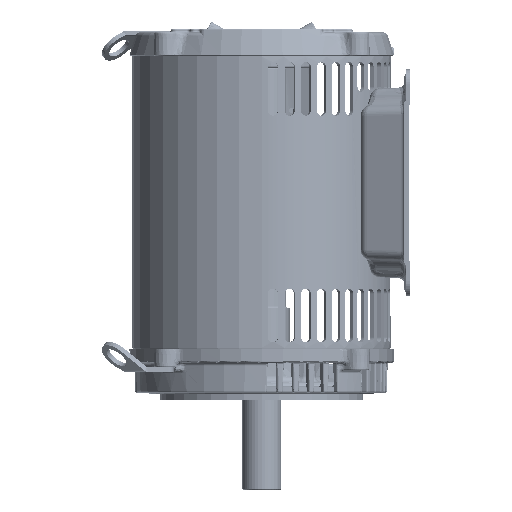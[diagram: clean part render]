
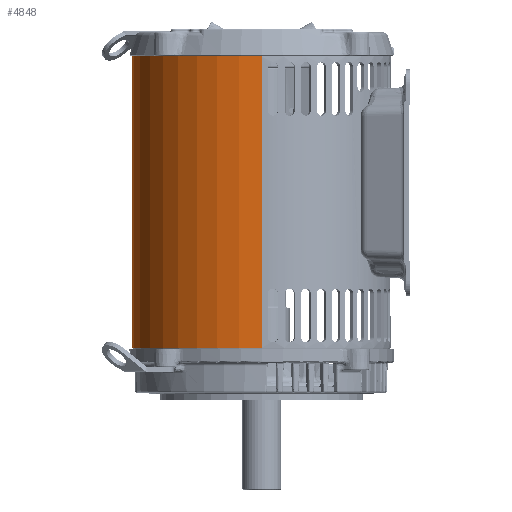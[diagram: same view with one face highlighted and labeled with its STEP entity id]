
A CAD part, left-side view. The second image highlights one B-rep face of the part: STEP entity #4848.
In plain terms, the highlighted cylindrical face has radius 137.879 mm (diameter 275.758 mm), a partial arc.
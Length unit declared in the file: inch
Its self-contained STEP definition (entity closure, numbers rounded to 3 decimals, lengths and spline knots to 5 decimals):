
#1=CARTESIAN_POINT('',(-5.28242,1.25,-3.9535));
#2=CARTESIAN_POINT('',(-5.27929,1.26322,-3.9535));
#3=CARTESIAN_POINT('',(-5.27334,1.28795,-3.94904));
#4=CARTESIAN_POINT('',(-5.26486,1.32214,-3.92944));
#5=CARTESIAN_POINT('',(-5.25855,1.34693,-3.89951));
#6=CARTESIAN_POINT('',(-5.25519,1.35995,-3.86358));
#7=CARTESIAN_POINT('',(-5.25514,1.36012,-3.82515));
#8=CARTESIAN_POINT('',(-5.25849,1.34715,-3.78892));
#9=CARTESIAN_POINT('',(-5.26468,1.32284,-3.75915));
#10=CARTESIAN_POINT('',(-5.27325,1.28831,-3.73901));
#11=CARTESIAN_POINT('',(-5.27926,1.26336,-3.7345));
#12=CARTESIAN_POINT('',(-5.28242,1.25,-3.7345));
#14=CARTESIAN_POINT('',(-5.28242,1.25,-3.7345));
#15=CARTESIAN_POINT('',(-5.28554,1.23681,-3.7345));
#16=CARTESIAN_POINT('',(-5.29128,1.21212,-3.73894));
#17=CARTESIAN_POINT('',(-5.29897,1.17799,-3.75846));
#18=CARTESIAN_POINT('',(-5.30441,1.15315,-3.78834));
#19=CARTESIAN_POINT('',(-5.30724,1.14004,-3.82435));
#20=CARTESIAN_POINT('',(-5.30727,1.13988,-3.86294));
#21=CARTESIAN_POINT('',(-5.30446,1.15294,-3.89924));
#22=CARTESIAN_POINT('',(-5.29912,1.17731,-3.92898));
#23=CARTESIAN_POINT('',(-5.29136,1.2118,-3.94901));
#24=CARTESIAN_POINT('',(-5.28557,1.23668,-3.9535));
#25=CARTESIAN_POINT('',(-5.28242,1.25,-3.9535));
#27=CARTESIAN_POINT('',(0.,0.,-6.108));
#28=DIRECTION('',(0.,0.,1.));
#29=DIRECTION('',(1.,0.,0.));
#30=AXIS2_PLACEMENT_3D('',#27,#28,#29);
#32=DIRECTION('',(0.,0.,1.));
#33=VECTOR('',#32,12.217);
#34=CARTESIAN_POINT('',(5.4283,0.,-6.108));
#35=LINE('',#34,#33);
#36=CARTESIAN_POINT('',(0.,0.,6.109));
#37=DIRECTION('',(0.,0.,1.));
#38=DIRECTION('',(1.,0.,0.));
#39=AXIS2_PLACEMENT_3D('',#36,#37,#38);
#41=CARTESIAN_POINT('',(0.,0.,-1.784));
#42=DIRECTION('',(0.,0.,1.));
#43=DIRECTION('',(-0.993,0.114,0.));
#44=AXIS2_PLACEMENT_3D('',#41,#42,#43);
#46=CARTESIAN_POINT('',(-5.37624,0.75,-1.914));
#47=CARTESIAN_POINT('',(-5.37624,0.75,-1.90015));
#48=CARTESIAN_POINT('',(-5.37683,0.74581,-1.87385));
#49=CARTESIAN_POINT('',(-5.37937,0.72731,-1.83683));
#50=CARTESIAN_POINT('',(-5.38326,0.69811,-1.80733));
#51=CARTESIAN_POINT('',(-5.38798,0.66082,-1.78834));
#52=CARTESIAN_POINT('',(-5.39115,0.63411,-1.784));
#53=CARTESIAN_POINT('',(-5.39278,0.62,-1.784));
#55=DIRECTION('',(0.,0.,1.));
#56=VECTOR('',#55,2.99);
#57=CARTESIAN_POINT('',(-5.37624,0.75,-4.904));
#58=LINE('',#57,#56);
#59=CARTESIAN_POINT('',(-5.39278,0.62,-5.034));
#60=CARTESIAN_POINT('',(-5.39117,0.63397,-5.034));
#61=CARTESIAN_POINT('',(-5.38802,0.66045,-5.02974));
#62=CARTESIAN_POINT('',(-5.38332,0.69761,-5.01102));
#63=CARTESIAN_POINT('',(-5.37942,0.72697,-4.98168));
#64=CARTESIAN_POINT('',(-5.37684,0.74573,-4.9445));
#65=CARTESIAN_POINT('',(-5.37624,0.75,-4.91798));
#66=CARTESIAN_POINT('',(-5.37624,0.75,-4.904));
#68=CARTESIAN_POINT('',(0.,0.,-5.034));
#69=DIRECTION('',(0.,0.,1.));
#70=DIRECTION('',(-0.993,0.114,0.));
#71=AXIS2_PLACEMENT_3D('',#68,#69,#70);
#1730=DIRECTION('',(0.,0.,1.));
#1731=VECTOR('',#1730,1.074);
#1732=CARTESIAN_POINT('',(-5.4283,0.,-6.108));
#1733=LINE('',#1732,#1731);
#1766=DIRECTION('',(0.,0.,1.));
#1767=VECTOR('',#1766,7.893);
#1768=CARTESIAN_POINT('',(-5.4283,0.,-1.784));
#1769=LINE('',#1768,#1767);
#4729=VERTEX_POINT('',#1);
#4730=VERTEX_POINT('',#12);
#4731=VERTEX_POINT('',#46);
#4732=VERTEX_POINT('',#53);
#4733=CARTESIAN_POINT('',(-5.4283,0.,-1.784));
#4734=VERTEX_POINT('',#4733);
#4735=CARTESIAN_POINT('',(-5.39278,0.62,-5.034));
#4736=CARTESIAN_POINT('',(-5.4283,0.,-5.034));
#4737=VERTEX_POINT('',#4735);
#4738=VERTEX_POINT('',#4736);
#4739=VERTEX_POINT('',#66);
#4799=CARTESIAN_POINT('',(5.4283,0.,-6.108));
#4800=CARTESIAN_POINT('',(-5.4283,0.,-6.108));
#4801=VERTEX_POINT('',#4799);
#4802=VERTEX_POINT('',#4800);
#4803=CARTESIAN_POINT('',(5.4283,0.,6.109));
#4804=CARTESIAN_POINT('',(-5.4283,0.,6.109));
#4805=VERTEX_POINT('',#4803);
#4806=VERTEX_POINT('',#4804);
#4815=CARTESIAN_POINT('',(0.,0.,-6.375));
#4816=DIRECTION('',(0.,0.,1.));
#4817=DIRECTION('',(1.,0.,0.));
#4818=AXIS2_PLACEMENT_3D('',#4815,#4816,#4817);
#4819=CYLINDRICAL_SURFACE('',#4818,5.4283);
#4821=ORIENTED_EDGE('',*,*,#4820,.F.);
#4823=ORIENTED_EDGE('',*,*,#4822,.T.);
#4825=ORIENTED_EDGE('',*,*,#4824,.T.);
#4827=ORIENTED_EDGE('',*,*,#4826,.F.);
#4829=ORIENTED_EDGE('',*,*,#4828,.F.);
#4831=ORIENTED_EDGE('',*,*,#4830,.F.);
#4833=ORIENTED_EDGE('',*,*,#4832,.F.);
#4835=ORIENTED_EDGE('',*,*,#4834,.F.);
#4837=ORIENTED_EDGE('',*,*,#4836,.T.);
#4839=ORIENTED_EDGE('',*,*,#4838,.F.);
#4840=EDGE_LOOP('',(#4821,#4823,#4825,#4827,#4829,#4831,#4833,#4835,#4837,
#4839));
#4841=FACE_OUTER_BOUND('',#4840,.F.);
#4843=ORIENTED_EDGE('',*,*,#4842,.F.);
#4845=ORIENTED_EDGE('',*,*,#4844,.F.);
#4846=EDGE_LOOP('',(#4843,#4845));
#4847=FACE_BOUND('',#4846,.F.);
#4848=ADVANCED_FACE('',(#4841,#4847),#4819,.T.);
#13=B_SPLINE_CURVE_WITH_KNOTS('',3,(#1,#2,#3,#4,#5,#6,#7,#8,#9,#10,#11,#12),
.UNSPECIFIED.,.F.,.F.,(4,1,1,1,1,1,1,1,1,4),(0.,0.11111,
0.22222,0.33333,0.44444,0.55556,
0.66667,0.77778,0.88889,1.),.UNSPECIFIED.);
#26=B_SPLINE_CURVE_WITH_KNOTS('',3,(#14,#15,#16,#17,#18,#19,#20,#21,#22,#23,#24,
#25),.UNSPECIFIED.,.F.,.F.,(4,1,1,1,1,1,1,1,1,4),(0.,0.11111,
0.22222,0.33333,0.44444,0.55556,
0.66667,0.77778,0.88889,1.),.UNSPECIFIED.);
#31=CIRCLE('',#30,5.4283);
#40=CIRCLE('',#39,5.4283);
#45=CIRCLE('',#44,5.4283);
#54=B_SPLINE_CURVE_WITH_KNOTS('',3,(#46,#47,#48,#49,#50,#51,#52,#53),
.UNSPECIFIED.,.F.,.F.,(4,1,1,1,1,4),(0.,0.2,0.4,0.6,0.8,1.),
.UNSPECIFIED.);
#67=B_SPLINE_CURVE_WITH_KNOTS('',3,(#59,#60,#61,#62,#63,#64,#65,#66),
.UNSPECIFIED.,.F.,.F.,(4,1,1,1,1,4),(0.,0.2,0.4,0.6,0.8,1.),
.UNSPECIFIED.);
#72=CIRCLE('',#71,5.4283);
#4820=EDGE_CURVE('',#4801,#4802,#31,.T.);
#4822=EDGE_CURVE('',#4801,#4805,#35,.T.);
#4824=EDGE_CURVE('',#4805,#4806,#40,.T.);
#4826=EDGE_CURVE('',#4734,#4806,#1769,.T.);
#4828=EDGE_CURVE('',#4732,#4734,#45,.T.);
#4830=EDGE_CURVE('',#4731,#4732,#54,.T.);
#4832=EDGE_CURVE('',#4739,#4731,#58,.T.);
#4834=EDGE_CURVE('',#4737,#4739,#67,.T.);
#4836=EDGE_CURVE('',#4737,#4738,#72,.T.);
#4838=EDGE_CURVE('',#4802,#4738,#1733,.T.);
#4842=EDGE_CURVE('',#4729,#4730,#13,.T.);
#4844=EDGE_CURVE('',#4730,#4729,#26,.T.);
